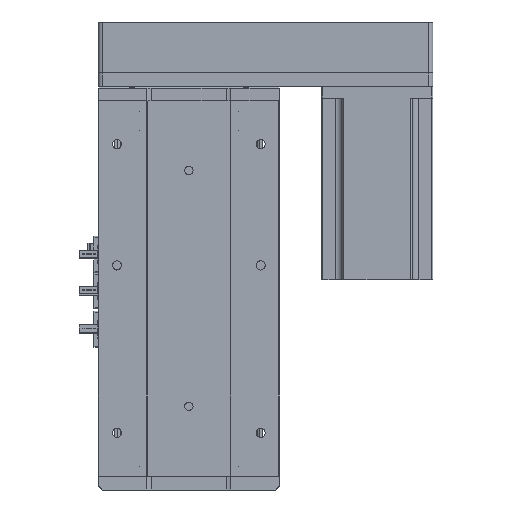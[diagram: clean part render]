
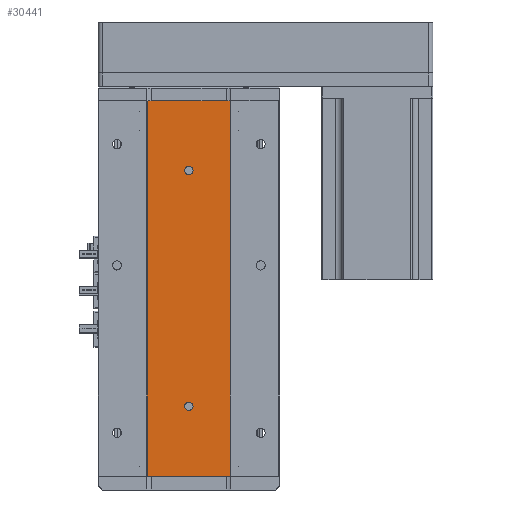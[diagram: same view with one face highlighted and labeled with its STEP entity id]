
A CAD part, left-side view. The second image highlights one B-rep face of the part: STEP entity #30441.
In plain terms, the highlighted planar face has unit normal (-1, 0, 0).
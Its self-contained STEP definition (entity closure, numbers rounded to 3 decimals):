
#37 = VECTOR ( 'NONE', #20686, 1000. ) ;
#264 = DIRECTION ( 'NONE',  ( 0., 0., 1. ) ) ;
#1295 = EDGE_CURVE ( 'NONE', #26917, #13339, #30836, .T. ) ;
#1806 = VERTEX_POINT ( 'NONE', #8966 ) ;
#2727 = CIRCLE ( 'NONE', #17503, 3. ) ;
#3214 = CARTESIAN_POINT ( 'NONE',  ( -24.994, 0., 47. ) ) ;
#3940 = EDGE_CURVE ( 'NONE', #33161, #23813, #33904, .T. ) ;
#3976 = ORIENTED_EDGE ( 'NONE', *, *, #6612, .T. ) ;
#4710 = VECTOR ( 'NONE', #11001, 1000. ) ;
#6060 = FACE_BOUND ( 'NONE', #36914, .T. ) ;
#6612 = EDGE_CURVE ( 'NONE', #13339, #21516, #26196, .T. ) ;
#7160 = DIRECTION ( 'NONE',  ( -1., 0., 0. ) ) ;
#8266 = DIRECTION ( 'NONE',  ( -1., 0., 0. ) ) ;
#8966 = CARTESIAN_POINT ( 'NONE',  ( -24.994, 0., 216. ) ) ;
#11001 = DIRECTION ( 'NONE',  ( 0., -1., 0. ) ) ;
#11895 = DIRECTION ( 'NONE',  ( 0., 0., -1. ) ) ;
#12913 = ORIENTED_EDGE ( 'NONE', *, *, #1295, .T. ) ;
#13090 = EDGE_CURVE ( 'NONE', #23813, #33161, #14830, .T. ) ;
#13339 = VERTEX_POINT ( 'NONE', #21649 ) ;
#13757 = FACE_BOUND ( 'NONE', #24907, .T. ) ;
#13981 = AXIS2_PLACEMENT_3D ( 'NONE', #17085, #37327, #19978 ) ;
#14634 = DIRECTION ( 'NONE',  ( -1., 0., 0. ) ) ;
#14830 = CIRCLE ( 'NONE', #21354, 3. ) ;
#14834 = CARTESIAN_POINT ( 'NONE',  ( -24.994, -29.785, 269. ) ) ;
#14910 = CARTESIAN_POINT ( 'NONE',  ( -24.994, 29.785, 269. ) ) ;
#15774 = LINE ( 'NONE', #14834, #29893 ) ;
#17085 = CARTESIAN_POINT ( 'NONE',  ( -24.994, 29.785, 269. ) ) ;
#17331 = ORIENTED_EDGE ( 'NONE', *, *, #3940, .F. ) ;
#17503 = AXIS2_PLACEMENT_3D ( 'NONE', #34905, #17595, #264 ) ;
#17595 = DIRECTION ( 'NONE',  ( -1., 0., 0. ) ) ;
#17924 = CARTESIAN_POINT ( 'NONE',  ( -24.994, -29.785, 269. ) ) ;
#18126 = VECTOR ( 'NONE', #29767, 1000. ) ;
#18359 = ORIENTED_EDGE ( 'NONE', *, *, #21963, .F. ) ;
#19189 = LINE ( 'NONE', #31233, #4710 ) ;
#19978 = DIRECTION ( 'NONE',  ( 0., 0., -1. ) ) ;
#20061 = EDGE_CURVE ( 'NONE', #27596, #1806, #30348, .T. ) ;
#20596 = EDGE_CURVE ( 'NONE', #26917, #27384, #19189, .T. ) ;
#20686 = DIRECTION ( 'NONE',  ( 0., 0., -1. ) ) ;
#21354 = AXIS2_PLACEMENT_3D ( 'NONE', #31948, #14634, #34817 ) ;
#21516 = VERTEX_POINT ( 'NONE', #32552 ) ;
#21649 = CARTESIAN_POINT ( 'NONE',  ( -24.994, 29.785, 0. ) ) ;
#21963 = EDGE_CURVE ( 'NONE', #1806, #27596, #2727, .T. ) ;
#22013 = EDGE_CURVE ( 'NONE', #27384, #21516, #15774, .T. ) ;
#22793 = PLANE ( 'NONE',  #13981 ) ;
#23813 = VERTEX_POINT ( 'NONE', #25396 ) ;
#24071 = CARTESIAN_POINT ( 'NONE',  ( -24.994, 29.785, 0. ) ) ;
#24479 = CARTESIAN_POINT ( 'NONE',  ( -24.994, 0., 50. ) ) ;
#24590 = ORIENTED_EDGE ( 'NONE', *, *, #20596, .F. ) ;
#24907 = EDGE_LOOP ( 'NONE', ( #36077, #17331 ) ) ;
#25350 = CARTESIAN_POINT ( 'NONE',  ( -24.994, 0., 222. ) ) ;
#25396 = CARTESIAN_POINT ( 'NONE',  ( -24.994, 0., 53. ) ) ;
#25564 = CARTESIAN_POINT ( 'NONE',  ( -24.994, 0., 219. ) ) ;
#26118 = ORIENTED_EDGE ( 'NONE', *, *, #20061, .F. ) ;
#26196 = LINE ( 'NONE', #24071, #18126 ) ;
#26917 = VERTEX_POINT ( 'NONE', #29985 ) ;
#27382 = DIRECTION ( 'NONE',  ( 0., 0., 1. ) ) ;
#27384 = VERTEX_POINT ( 'NONE', #17924 ) ;
#27596 = VERTEX_POINT ( 'NONE', #25350 ) ;
#28484 = DIRECTION ( 'NONE',  ( 0., 0., 1. ) ) ;
#29138 = FACE_OUTER_BOUND ( 'NONE', #33260, .T. ) ;
#29767 = DIRECTION ( 'NONE',  ( 0., -1., 0. ) ) ;
#29893 = VECTOR ( 'NONE', #11895, 1000. ) ;
#29985 = CARTESIAN_POINT ( 'NONE',  ( -24.994, 29.785, 269. ) ) ;
#30348 = CIRCLE ( 'NONE', #31246, 3. ) ;
#30441 = ADVANCED_FACE ( 'NONE', ( #6060, #13757, #29138 ), #22793, .F. ) ;
#30836 = LINE ( 'NONE', #14910, #37 ) ;
#31233 = CARTESIAN_POINT ( 'NONE',  ( -24.994, 29.785, 269. ) ) ;
#31246 = AXIS2_PLACEMENT_3D ( 'NONE', #25564, #8266, #28484 ) ;
#31512 = AXIS2_PLACEMENT_3D ( 'NONE', #24479, #7160, #27382 ) ;
#31948 = CARTESIAN_POINT ( 'NONE',  ( -24.994, 0., 50. ) ) ;
#32552 = CARTESIAN_POINT ( 'NONE',  ( -24.994, -29.785, 0. ) ) ;
#33161 = VERTEX_POINT ( 'NONE', #3214 ) ;
#33260 = EDGE_LOOP ( 'NONE', ( #3976, #34677, #24590, #12913 ) ) ;
#33904 = CIRCLE ( 'NONE', #31512, 3. ) ;
#34677 = ORIENTED_EDGE ( 'NONE', *, *, #22013, .F. ) ;
#34817 = DIRECTION ( 'NONE',  ( 0., 0., 1. ) ) ;
#34905 = CARTESIAN_POINT ( 'NONE',  ( -24.994, 0., 219. ) ) ;
#36077 = ORIENTED_EDGE ( 'NONE', *, *, #13090, .F. ) ;
#36914 = EDGE_LOOP ( 'NONE', ( #26118, #18359 ) ) ;
#37327 = DIRECTION ( 'NONE',  ( 1., 0., 0. ) ) ;
